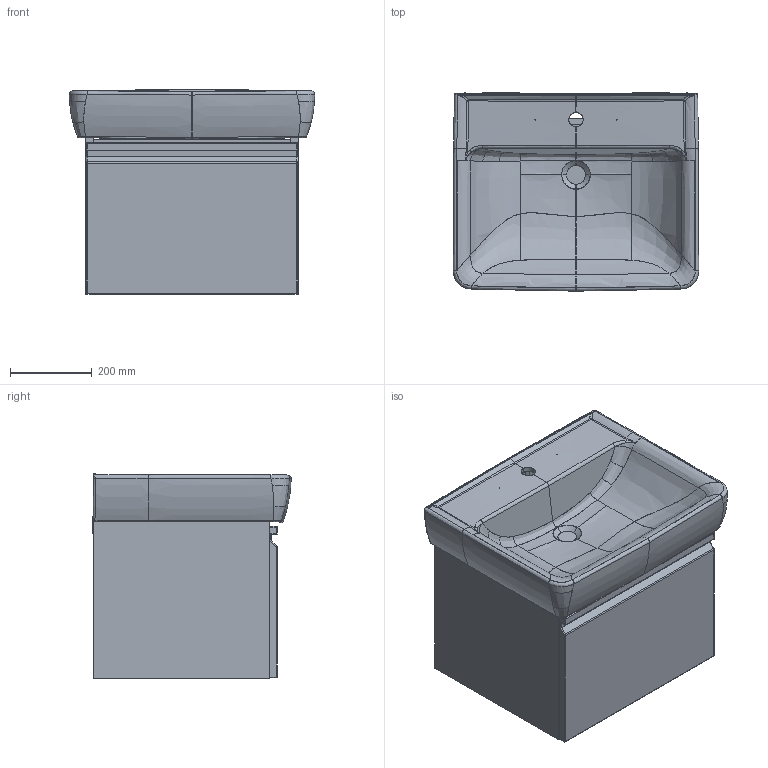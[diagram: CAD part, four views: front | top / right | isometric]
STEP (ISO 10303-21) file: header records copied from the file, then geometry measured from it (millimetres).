
FILE_DESCRIPTION(/* description */ (''),/* implementation_level */ '2;1');
FILE_NAME(/* name */ 'C:\Users\User33\Desktop\Pro A\3D01_483034.stp',/* time_stamp */ '2018-05-21T11:22:26+02:00',/* author */ ('User33'),/* organization */ (''),/* preprocessor_version */ 'ST-DEVELOPER v16.13',/* originating_system */ 'Autodesk Inventor 2018',/* authorisation */ '');
FILE_SCHEMA (('AUTOMOTIVE_DESIGN { 1 0 10303 214 3 1 1 }'));
Products named in the file (30): 3D01_483034; 3D01_483034_1_1; 3D01_483034_1; 3D01_483034_1_2; 3D01_483034_2; 3D01_483034_3; 3D01_483034_4; 3D01_483034_5; 3D01_483034_6; 3D01_483034_7; 3D01_483034_8; 3D01_483034_9; 3D01_483034_10; 3D01_483034_11; 3D01_483034_12; 3D01_483034_13; 3D01_483034_14; 3D01_483034_15; 3D01_483034_16; 3D01_483034_17; 3D01_483034_18; 3D01_483034_19; 3D01_483034_20; 3D01_483034_21; 3D01_483034_22; 3D01_483034_23; 3D01_483034_24; 3D01_483034_25; 3D01_483034_26; 3D01_483034_27
Assembly tree (29 placements, depth 2):
  3D01_483034
    3D01_483034_1_1
    3D01_483034_1
    3D01_483034_1_2
    3D01_483034_2
    3D01_483034_3
    3D01_483034_4
    3D01_483034_5
    3D01_483034_6
    3D01_483034_7
    3D01_483034_8
    3D01_483034_9
    3D01_483034_10
    3D01_483034_11
    3D01_483034_12
    3D01_483034_13
    3D01_483034_14
    3D01_483034_15
    3D01_483034_16
    3D01_483034_17
    3D01_483034_18
    3D01_483034_19
    3D01_483034_20
    3D01_483034_21
    3D01_483034_22
    3D01_483034_23
    3D01_483034_24
    3D01_483034_25
    3D01_483034_26
    3D01_483034_27
Bounding box: 600.66 x 485.85 x 501 mm (x, y, z)
Volume: 21889928.1 mm3; surface area: 4131504.1 mm2
Topology: 28 solids, 595 shells, 1433 faces, 5028 edges, 4221 vertices
Faces by surface type: plane 667, bspline 502, cylinder 254, sphere 4, cone 4, torus 2
Entity records: 92241 total; most frequent: CARTESIAN_POINT 53290, ORIENTED_EDGE 7259, DIRECTION 5622, EDGE_CURVE 4989, VERTEX_POINT 4219, LINE 2268, VECTOR 2268, B_SPLINE_CURVE_WITH_KNOTS 2032
